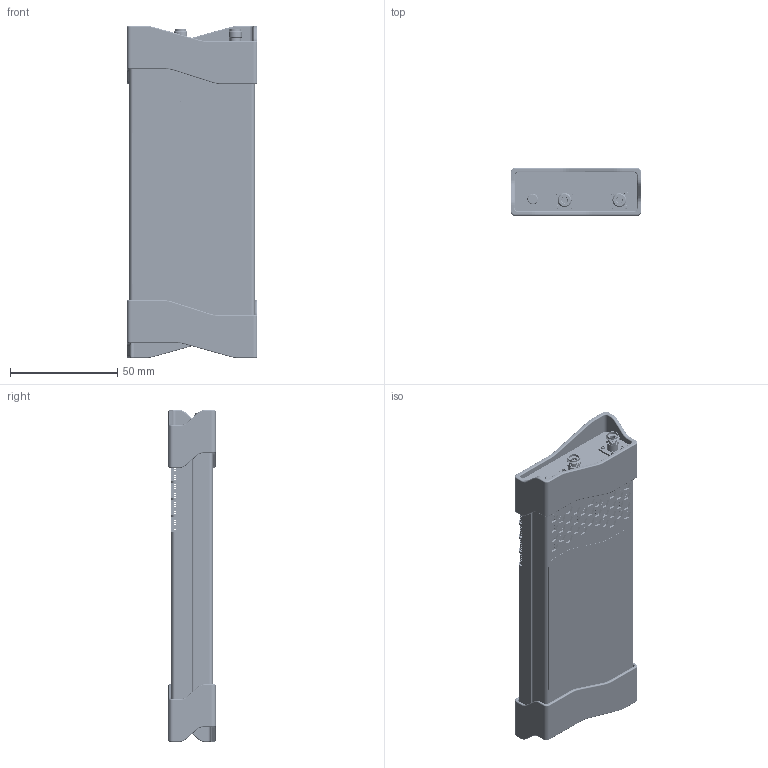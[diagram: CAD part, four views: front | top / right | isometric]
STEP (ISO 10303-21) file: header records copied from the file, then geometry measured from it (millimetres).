
FILE_DESCRIPTION(/* description */ ('Unknown'),/* implementation_level */ '2;1');
FILE_NAME(/* name */ 'SAM-BJ-R4R5',/* time_stamp */ '2024-06-24T10:18:05+08:00',/* author */ ('Unknown'),/* organization */ ('Unknown'),/* preprocessor_version */ 'ST-DEVELOPER v18.102',/* originating_system */ 'GstarCAD3D',/* authorisation */ 'Unknown');
FILE_SCHEMA (('AUTOMOTIVE_DESIGN {1 0 10303 214 3 1 1}'));
Products named in the file (20): SAM-BJ-R4R5; SAM-bot (2)-R4R5; SAM耀輸-R4R; mv16-R4R5; U30GAIZI-R4R5; SAM_RV5_BOTV6-R4R5; MCXTOU-R4R5; SAM_pcb-R4R5; U30C4T_PCB-R4R5; SAM-MK2 type-c諉; component4_ANT_7v-V6.0.STEP_0; SAM-top (2)-R4R5; SAM·çÉÈ-R4Râ; SAM-SAN攝韓杶-R6-050; USbﾄﾚ; 泂祧綴ceRe; 泂祧
q3; ﾌｽ_; 泂; 侧面防闃查梼鎻掔毠缂僟
Assembly tree (27 placements, depth 3):
  SAM-BJ-R4R5
    SAM-bot (2)-R4R5
    SAM耀輸-R4R
      mv16-R4R5
      U30GAIZI-R4R5
      SAM_RV5_BOTV6-R4R5
      MCXTOU-R4R5
      SAM_pcb-R4R5
      U30C4T_PCB-R4R5
      SAM-MK2 type-c諉  x3
      component4_ANT_7v-V6.0.STEP_0  x2
    SAM-top (2)-R4R5
    SAM·çÉÈ-R4Râ
    SAM-SAN攝韓杶-R6-050  x2
    USbﾄﾚ  x3
    泂祧綴ceRe
    泂祧
q3  x2
    ﾌｽ_
    泂
    侧面防闃查梼鎻掔毠缂僟  x2
Bounding box: 60.9 x 22 x 154.51 mm (x, y, z)
Volume: 82628 mm3; surface area: 151412.7 mm2
Topology: 23 solids, 26 shells, 10841 faces, 36612 edges, 25925 vertices
Faces by surface type: cylinder 7776, plane 2821, torus 141, cone 79, sphere 24
Full cylindrical faces by diameter (mm): 0.4 x240, 0.435 x6018, 0.726 x2, 1.6 x3, 2.2 x2, 2.737 x2, 5.2 x1, 6.048 x10
Entity records: 216262 total; most frequent: CARTESIAN_POINT 36781, DIRECTION 33930, ORIENTED_EDGE 29446, EDGE_LOOP 16129, FACE_BOUND 16129, EDGE_CURVE 14731, AXIS2_PLACEMENT_3D 14315, VERTEX_POINT 11812
